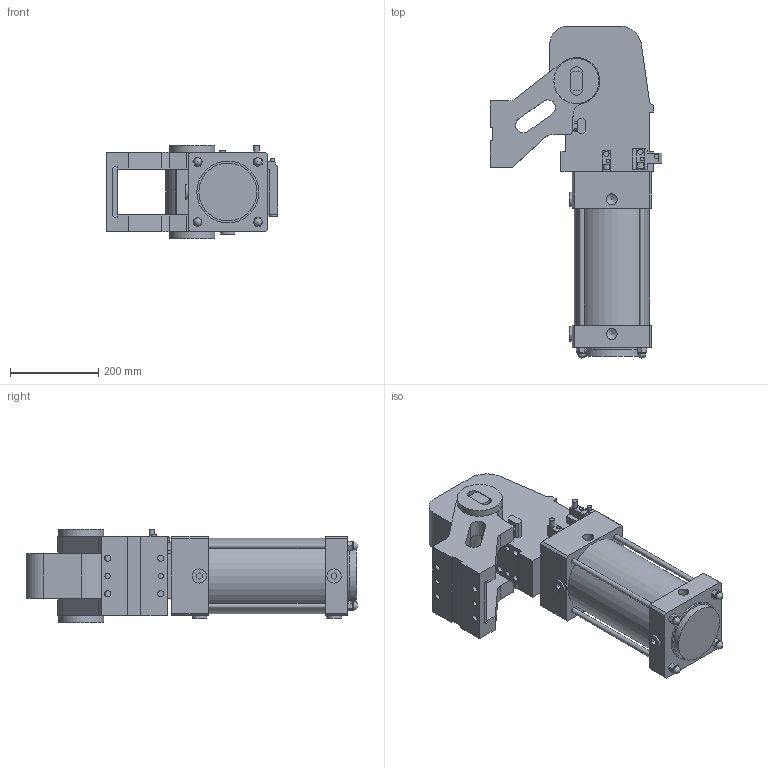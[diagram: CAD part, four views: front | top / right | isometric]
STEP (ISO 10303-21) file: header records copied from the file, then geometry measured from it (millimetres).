
FILE_DESCRIPTION(/* description */ (''),/* implementation_level */ '2;1');
FILE_NAME(/* name */ 'S:\Tom\INVENTOR FILES\AUTOMOTIVE\VEP\DUMP UNITS\C05.P015 RFM.2-RF.2\C05.P015 RFM.2-RF.2\RFM160\SATs\XPUZ160.2-129-1-ESL-P-G-X.stp',/* time_stamp */ '2018-07-29T17:57:55+01:00',/* author */ ('carl'),/* organization */ (''),/* preprocessor_version */ 'ST-DEVELOPER v16.13',/* originating_system */ 'Autodesk Inventor 2018',/* authorisation */ '');
FILE_SCHEMA (('AUTOMOTIVE_DESIGN { 1 0 10303 214 3 1 1 }'));
Length unit declared in the file: millimetre
Products named in the file (11): XPUZ160.2-129-1-ESL-P-G-X_TOP; XPUZ160; XPUZ160_1; XPUZ160_2; XPUZ160_3; XPUZ160_4; XPUZ160_5; XPUZ160_6; XPUZ160_7; XPUZ160_8; XPUZ160_9
Assembly tree (10 placements, depth 2):
  XPUZ160.2-129-1-ESL-P-G-X_TOP
    XPUZ160
    XPUZ160_1
    XPUZ160_2
    XPUZ160_3
    XPUZ160_4
    XPUZ160_5
    XPUZ160_6
    XPUZ160_7
    XPUZ160_8
    XPUZ160_9
Bounding box: 388 x 750.5 x 212 mm (x, y, z)
Volume: 20328051.9 mm3; surface area: 962479.3 mm2
Topology: 10 solids, 10 shells, 388 faces, 954 edges, 627 vertices
Faces by surface type: plane 264, cylinder 102, cone 18, sphere 4
Full cylindrical faces by diameter (mm): 5.5 x2, 8.5 x2, 10 x3, 10.2 x1, 11.8 x2, 12 x12, 13 x1, 14 x12, 18 x5, 24.5 x6, 26 x4, 32 x4, 45 x1, 50.5 x1, 60 x2, 102 x2, 131 x1, 140 x1, 170 x1
Entity records: 11149 total; most frequent: DIRECTION 1868, CARTESIAN_POINT 1847, ORIENTED_EDGE 1680, EDGE_CURVE 840, LINE 630, VECTOR 630, AXIS2_PLACEMENT_3D 619, VERTEX_POINT 598
